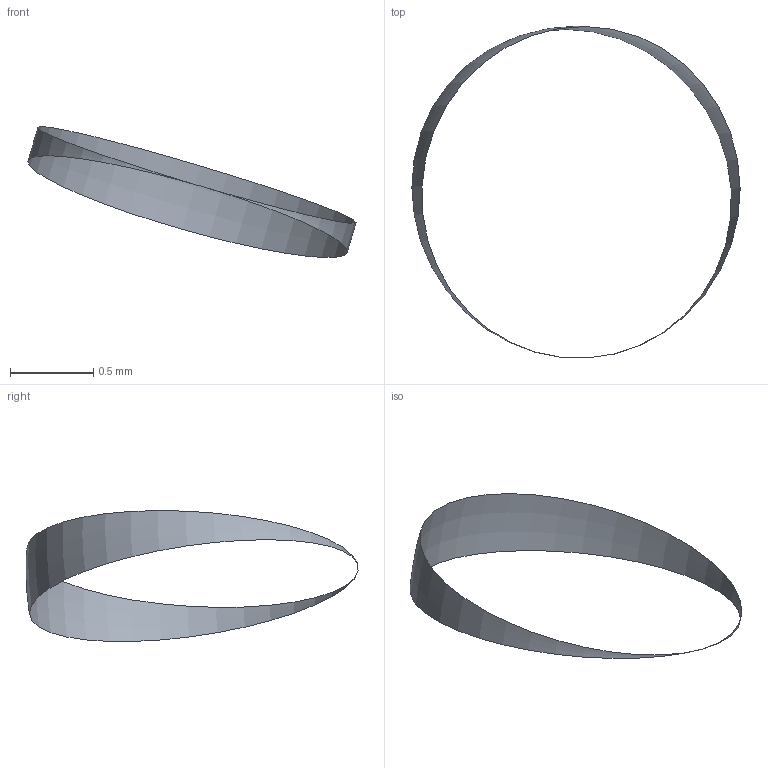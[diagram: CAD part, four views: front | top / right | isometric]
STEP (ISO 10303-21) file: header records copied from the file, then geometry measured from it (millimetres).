
FILE_DESCRIPTION(('BRL-CAD AP214 degenerate torus endpoint fixture'),'2;1');
FILE_NAME('ap214_degenerate_torus_endpoint.stp','2026-07-22T00:00:00',('BRL-CAD'),('BRL-CAD'),'','','');
FILE_SCHEMA(('AUTOMOTIVE_DESIGN { 1 0 10303 214 3 1 1 1 }'));
Length unit declared in the file: millimetre
Products named in the file (1): degenerate_torus_endpoint
Bounding box: 1.98 x 2 x 0.79 mm (x, y, z)
Surface area: 1.3 mm2 (no closed solid volume)
Topology: 0 solids, 1 shells, 1 faces, 6 edges, 3 vertices
Faces by surface type: torus 1
Entity records: 58 total; most frequent: DIRECTION 10, CARTESIAN_POINT 9, AXIS2_PLACEMENT_3D 5, VERTEX_POINT 4, CIRCLE 4, EDGE_CURVE 4, ORIENTED_EDGE 4, EDGE_LOOP 1
